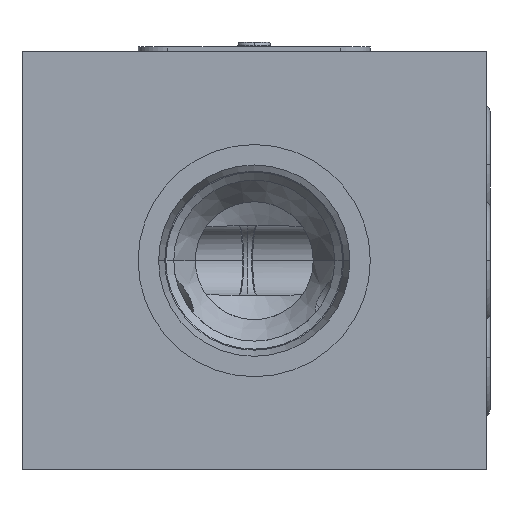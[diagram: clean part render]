
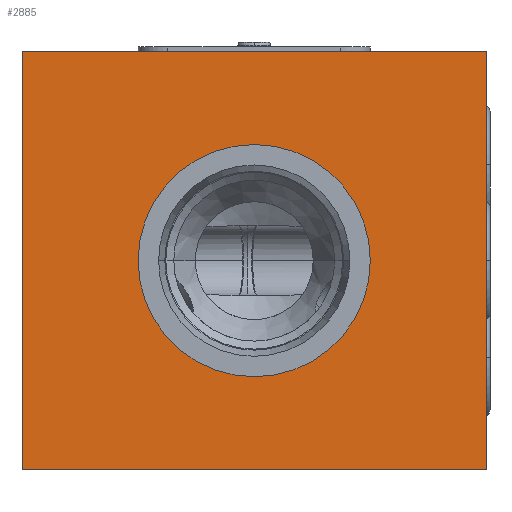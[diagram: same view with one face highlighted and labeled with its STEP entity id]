
A CAD part, left-side view. The second image highlights one B-rep face of the part: STEP entity #2885.
In plain terms, the highlighted planar face has unit normal (-1, 0, 0).
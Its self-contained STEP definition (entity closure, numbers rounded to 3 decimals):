
#55=DIRECTION('',(0.,0.,-1.));
#56=VECTOR('',#55,45.);
#57=CARTESIAN_POINT('',(0.,0.,0.));
#58=LINE('',#57,#56);
#62=DIRECTION('',(0.,1.,0.));
#63=VECTOR('',#62,50.);
#64=CARTESIAN_POINT('',(0.,0.,-45.));
#65=LINE('',#64,#63);
#69=DIRECTION('',(0.,0.,1.));
#70=VECTOR('',#69,45.);
#71=CARTESIAN_POINT('',(0.,50.,-45.));
#72=LINE('',#71,#70);
#76=DIRECTION('',(0.,-1.,0.));
#77=VECTOR('',#76,50.);
#78=CARTESIAN_POINT('',(0.,50.,0.));
#79=LINE('',#78,#77);
#83=CARTESIAN_POINT('',(0.,25.,-22.5));
#84=DIRECTION('',(1.,0.,0.));
#85=DIRECTION('',(0.,-1.,0.));
#86=AXIS2_PLACEMENT_3D('',#83,#84,#85);
#91=CARTESIAN_POINT('',(0.,25.,-22.5));
#92=DIRECTION('',(1.,0.,0.));
#93=DIRECTION('',(0.,1.,0.));
#94=AXIS2_PLACEMENT_3D('',#91,#92,#93);
#2616=CARTESIAN_POINT('',(0.,0.,0.));
#2617=CARTESIAN_POINT('',(0.,0.,-45.));
#2618=VERTEX_POINT('',#2616);
#2619=VERTEX_POINT('',#2617);
#2620=CARTESIAN_POINT('',(0.,50.,-45.));
#2621=VERTEX_POINT('',#2620);
#2622=CARTESIAN_POINT('',(0.,50.,0.));
#2623=VERTEX_POINT('',#2622);
#2736=CARTESIAN_POINT('',(0.,12.5,-22.5));
#2737=VERTEX_POINT('',#2736);
#2738=CARTESIAN_POINT('',(0.,37.5,-22.5));
#2739=VERTEX_POINT('',#2738);
#2864=CARTESIAN_POINT('',(0.,0.,0.));
#2865=DIRECTION('',(1.,0.,0.));
#2866=DIRECTION('',(0.,0.,-1.));
#2867=AXIS2_PLACEMENT_3D('',#2864,#2865,#2866);
#2868=PLANE('',#2867);
#2870=ORIENTED_EDGE('',*,*,#2869,.T.);
#2872=ORIENTED_EDGE('',*,*,#2871,.T.);
#2874=ORIENTED_EDGE('',*,*,#2873,.T.);
#2876=ORIENTED_EDGE('',*,*,#2875,.T.);
#2877=EDGE_LOOP('',(#2870,#2872,#2874,#2876));
#2878=FACE_OUTER_BOUND('',#2877,.F.);
#2880=ORIENTED_EDGE('',*,*,#2879,.F.);
#2882=ORIENTED_EDGE('',*,*,#2881,.F.);
#2883=EDGE_LOOP('',(#2880,#2882));
#2884=FACE_BOUND('',#2883,.F.);
#87=CIRCLE('',#86,12.5);
#95=CIRCLE('',#94,12.5);
#2869=EDGE_CURVE('',#2618,#2619,#58,.T.);
#2871=EDGE_CURVE('',#2619,#2621,#65,.T.);
#2873=EDGE_CURVE('',#2621,#2623,#72,.T.);
#2875=EDGE_CURVE('',#2623,#2618,#79,.T.);
#2879=EDGE_CURVE('',#2737,#2739,#87,.T.);
#2881=EDGE_CURVE('',#2739,#2737,#95,.T.);
#2885=ADVANCED_FACE('',(#2878,#2884),#2868,.F.);
